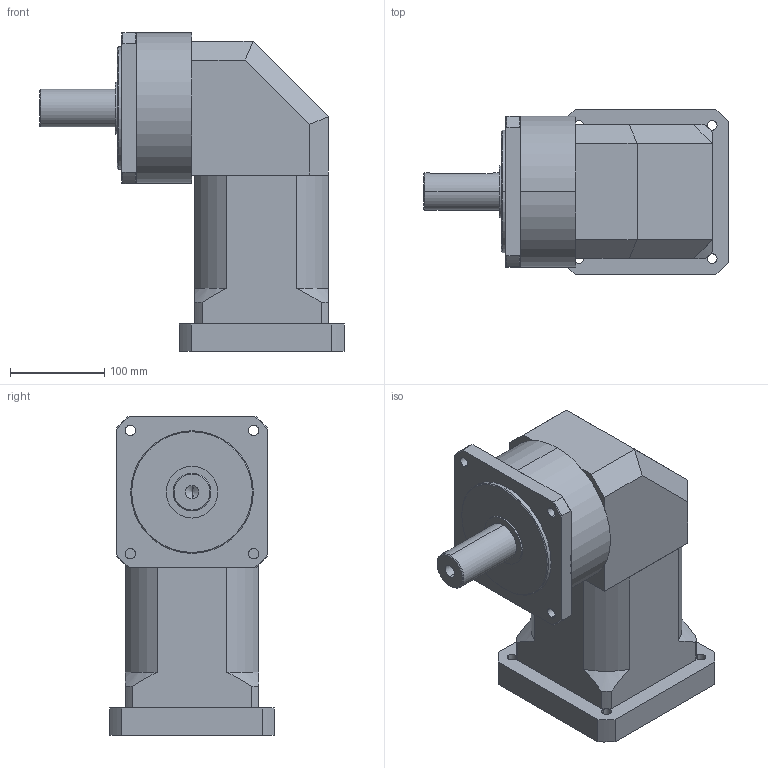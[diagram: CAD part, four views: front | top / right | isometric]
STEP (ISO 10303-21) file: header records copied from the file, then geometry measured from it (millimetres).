
FILE_DESCRIPTION (( 'STEP AP203' ), '1' );
FILE_NAME ('ZPLF160单级新结构（35-80-114.3-3-4-13.5-200）.STEP', '2019-08-07T02:16:30', ( 'Microsoft' ), ( 'Microsoft' ), 'SwSTEP 2.0', 'SolidWorks 2014', '' );
FILE_SCHEMA (( 'CONFIG_CONTROL_DESIGN' ));
Length unit declared in the file: millimetre
Products named in the file (4): 蛌褒陔唳142眊极; ZPLF160单级新结构（35-80-114.3-3-4-13.5-200）; 转角新版160单级输出端; 转角新版160单级输入端（35-80-114.3-3-4-13.5-200）
Assembly tree (3 placements, depth 2):
  ZPLF160单级新结构（35-80-114.3-3-4-13.5-200）
    蛌褒陔唳142眊极
    转角新版160单级输出端
    转角新版160单级输入端（35-80-114.3-3-4-13.5-200）
Bounding box: 322.5 x 175 x 338 mm (x, y, z)
Volume: 7269774 mm3; surface area: 416870.4 mm2
Topology: 3 solids, 3 shells, 136 faces, 341 edges, 221 vertices
Faces by surface type: cylinder 64, plane 50, cone 22
Entity records: 4675 total; most frequent: CARTESIAN_POINT 896, DIRECTION 745, ORIENTED_EDGE 678, EDGE_CURVE 339, AXIS2_PLACEMENT_3D 294, VERTEX_POINT 221, EDGE_LOOP 164, LINE 157
